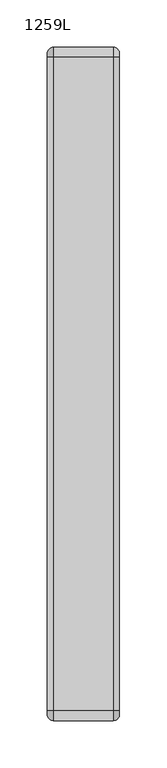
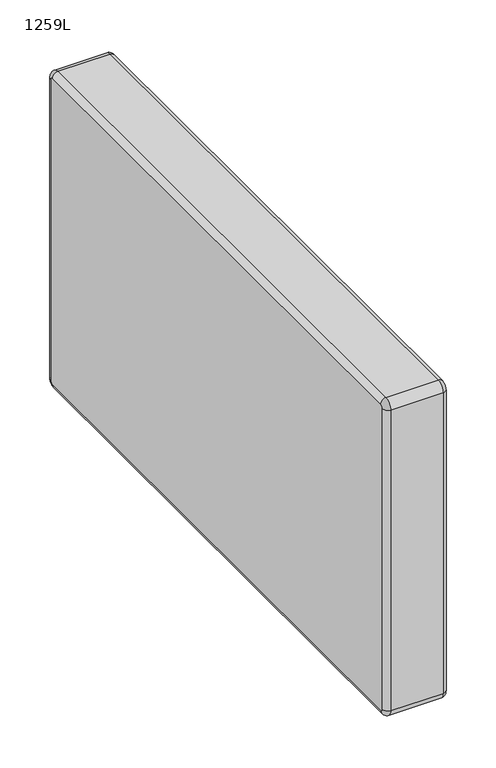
"""IFC4 building model written with IfcOpenShell, lengths in millimetres: furniture geometry, Laguna-Arm-Slim-ERG : 1259L."""

from ifc_helpers import new_model, si_unit, point, frame, origin, place, context, project, spatial, circle_curve, ellipse_curve, trimmed, source, transform, mapped, element, save
from ifc_brep_helpers import plane_surface, cylinder_surface, revolved_surface, advanced_brep


def furniture_1259l_694d9429(model_context):
    return source(origin(), model_context, "Body", "AdvancedBrep", [
        advanced_brep(
        [(-4732.5921763, -548.3558502, 599.44), (-4738.9421763, -554.7058502, 599.44), (-4738.9421763, -558.5158502, 603.25), (-4732.5921763, -558.5158502, 609.6), (-4732.5921763, -548.3558502, 213.36), (-4738.9421763, -554.7058502, 213.36), (-4732.5921763, -558.5158502, 203.2), (-4738.9421763, -558.5158502, 209.55), (-4732.5921763, -1249.3958502, 203.2), (-4738.9421763, -1249.3958502, 209.55), (-4732.5921763, -1259.5558502, 213.36), (-4738.9421763, -1253.2058502, 213.36), (-4732.5921763, -1259.5558502, 599.44), (-4738.9421763, -1253.2058502, 599.44), (-4732.5921763, -1249.3958502, 609.6), (-4738.9421763, -1249.3958502, 603.25), (-4662.7421763, -558.5158502, 603.25), (-4662.7421763, -1249.3958502, 603.25), (-4662.7421763, -1253.2058502, 599.44), (-4662.7421763, -1253.2058502, 213.36), (-4662.7421763, -1249.3958502, 209.55), (-4662.7421763, -558.5158502, 209.55), (-4662.7421763, -554.7058502, 213.36), (-4662.7421763, -554.7058502, 599.44), (-4669.0921763, -558.5158502, 609.6), (-4669.0921763, -548.3558502, 599.44), (-4669.0921763, -548.3558502, 213.36), (-4669.0921763, -558.5158502, 203.2), (-4669.0921763, -1249.3958502, 203.2), (-4669.0921763, -1259.5558502, 213.36), (-4669.0921763, -1259.5558502, 599.44), (-4669.0921763, -1249.3958502, 609.6)],
        [
            (0, 1, circle_curve(frame((-4732.5921763, -554.7058502, 599.44), z_axis=(0.0, 0.0, 1.0), x_axis=(-1.0, 0.0, 0.0)), 6.35)),
            (1, 2, circle_curve(frame((-4738.9421763, -558.5158502, 599.44), z_axis=(1.0, 0.0, 0.0), x_axis=(0.0, 0.0, 1.0)), 3.81)),
            (2, 3, circle_curve(frame((-4732.5921763, -558.5158502, 603.25), z_axis=(0.0, 1.0, 0.0), x_axis=(-1.0, 0.0, 0.0)), 6.35)),
            (3, 0, circle_curve(frame((-4732.5921763, -558.5158502, 599.44), z_axis=(-1.0, 0.0, 0.0), x_axis=(0.0, 0.0, 1.0)), 10.16)),
            (0, 4),
            (4, 5, circle_curve(frame((-4732.5921763, -554.7058502, 213.36), z_axis=(0.0, 0.0, 1.0), x_axis=(-1.0, 0.0, 0.0)), 6.35)),
            (5, 1),
            (4, 6, circle_curve(frame((-4732.5921763, -558.5158502, 213.36), z_axis=(-1.0, 0.0, 0.0), x_axis=(0.0, 1.0, 0.0)), 10.16)),
            (6, 7, circle_curve(frame((-4732.5921763, -558.5158502, 209.55), z_axis=(0.0, 1.0, 0.0), x_axis=(-1.0, 0.0, 0.0)), 6.35)),
            (7, 5, circle_curve(frame((-4738.9421763, -558.5158502, 213.36), z_axis=(1.0, 0.0, 0.0), x_axis=(0.0, 1.0, 0.0)), 3.81)),
            (6, 8),
            (8, 9, circle_curve(frame((-4732.5921763, -1249.3958502, 209.55), z_axis=(0.0, 1.0, 0.0), x_axis=(-1.0, 0.0, 0.0)), 6.35)),
            (9, 7),
            (8, 10, circle_curve(frame((-4732.5921763, -1249.3958502, 213.36), z_axis=(-1.0, 0.0, 0.0), x_axis=(0.0, 0.0, -1.0)), 10.16)),
            (10, 11, circle_curve(frame((-4732.5921763, -1253.2058502, 213.36), z_axis=(0.0, 0.0, -1.0), x_axis=(-1.0, 0.0, 0.0)), 6.35)),
            (11, 9, circle_curve(frame((-4738.9421763, -1249.3958502, 213.36), z_axis=(1.0, 0.0, 0.0), x_axis=(0.0, 0.0, -1.0)), 3.81)),
            (10, 12),
            (12, 13, circle_curve(frame((-4732.5921763, -1253.2058502, 599.44), z_axis=(0.0, 0.0, -1.0), x_axis=(-1.0, 0.0, 0.0)), 6.35)),
            (13, 11),
            (12, 14, circle_curve(frame((-4732.5921763, -1249.3958502, 599.44), z_axis=(-1.0, 0.0, 0.0), x_axis=(0.0, -1.0, 0.0)), 10.16)),
            (14, 15, circle_curve(frame((-4732.5921763, -1249.3958502, 603.25), z_axis=(0.0, -1.0, 0.0), x_axis=(-1.0, 0.0, 0.0)), 6.35)),
            (15, 13, circle_curve(frame((-4738.9421763, -1249.3958502, 599.44), z_axis=(1.0, 0.0, 0.0), x_axis=(0.0, -1.0, 0.0)), 3.81)),
            (2, 15),
            (14, 3),
            (16, 17),
            (17, 18, circle_curve(frame((-4662.7421763, -1249.3958502, 599.44), z_axis=(1.0, 0.0, 0.0), x_axis=(0.0, -1.0, 0.0)), 3.81)),
            (18, 19),
            (19, 20, circle_curve(frame((-4662.7421763, -1249.3958502, 213.36), z_axis=(1.0, 0.0, 0.0), x_axis=(0.0, 0.0, -1.0)), 3.81)),
            (20, 21),
            (21, 22, circle_curve(frame((-4662.7421763, -558.5158502, 213.36), z_axis=(1.0, 0.0, 0.0), x_axis=(0.0, 1.0, 0.0)), 3.81)),
            (22, 23),
            (23, 16, circle_curve(frame((-4662.7421763, -558.5158502, 599.44), z_axis=(1.0, 0.0, 0.0), x_axis=(0.0, 0.0, 1.0)), 3.81)),
            (3, 24),
            (24, 25, circle_curve(frame((-4669.0921763, -558.5158502, 599.44), z_axis=(-1.0, 0.0, 0.0), x_axis=(0.0, 0.0, 1.0)), 10.16)),
            (25, 0),
            (24, 16, circle_curve(frame((-4669.0921763, -558.5158502, 603.25), z_axis=(0.0, 1.0, 0.0), x_axis=(1.0, 0.0, 0.0)), 6.35)),
            (23, 25, circle_curve(frame((-4669.0921763, -554.7058502, 599.44), z_axis=(0.0, 0.0, 1.0), x_axis=(1.0, 0.0, 0.0)), 6.35)),
            (25, 26),
            (26, 4),
            (22, 26, circle_curve(frame((-4669.0921763, -554.7058502, 213.36), z_axis=(0.0, 0.0, 1.0), x_axis=(1.0, 0.0, 0.0)), 6.35)),
            (26, 27, circle_curve(frame((-4669.0921763, -558.5158502, 213.36), z_axis=(-1.0, 0.0, 0.0), x_axis=(0.0, 1.0, 0.0)), 10.16)),
            (27, 6),
            (21, 27, circle_curve(frame((-4669.0921763, -558.5158502, 209.55), z_axis=(0.0, 1.0, 0.0), x_axis=(1.0, 0.0, 0.0)), 6.35)),
            (27, 28),
            (28, 8),
            (20, 28, circle_curve(frame((-4669.0921763, -1249.3958502, 209.55), z_axis=(0.0, 1.0, 0.0), x_axis=(1.0, 0.0, 0.0)), 6.35)),
            (28, 29, circle_curve(frame((-4669.0921763, -1249.3958502, 213.36), z_axis=(-1.0, 0.0, 0.0), x_axis=(0.0, 0.0, -1.0)), 10.16)),
            (29, 10),
            (19, 29, circle_curve(frame((-4669.0921763, -1253.2058502, 213.36), z_axis=(0.0, 0.0, -1.0), x_axis=(1.0, 0.0, 0.0)), 6.35)),
            (29, 30),
            (30, 12),
            (18, 30, circle_curve(frame((-4669.0921763, -1253.2058502, 599.44), z_axis=(0.0, 0.0, -1.0), x_axis=(1.0, 0.0, 0.0)), 6.35)),
            (30, 31, circle_curve(frame((-4669.0921763, -1249.3958502, 599.44), z_axis=(-1.0, 0.0, 0.0), x_axis=(0.0, -1.0, 0.0)), 10.16)),
            (31, 14),
            (17, 31, circle_curve(frame((-4669.0921763, -1249.3958502, 603.25), z_axis=(0.0, -1.0, 0.0), x_axis=(1.0, 0.0, 0.0)), 6.35)),
            (31, 24),
        ],
        [
            revolved_surface(trimmed(ellipse_curve(frame((-4732.5921763, -558.5158502, 603.25), z_axis=(0.0, 1.0, 0.0), x_axis=(-1.0, 0.0, 0.0)), 6.35, 6.35), [point((-4738.9421763, -558.5158502, 603.25))], [point((-4732.5921763, -558.5158502, 609.6))], True, "CARTESIAN"), (-4732.5921763, -558.5158502, 599.44), (1.0, 0.0, 0.0)),
            cylinder_surface(frame((-4732.5921763, -554.7058502, 599.44), z_axis=(0.0, 0.0, 1.0), x_axis=(-1.0, 0.0, 0.0)), 6.35),
            revolved_surface(trimmed(ellipse_curve(frame((-4732.5921763, -554.7058502, 213.36), z_axis=(0.0, 0.0, -1.0), x_axis=(-1.0, 0.0, 0.0)), 6.35, 6.35), [point((-4738.9421763, -554.7058502, 213.36))], [point((-4732.5921763, -548.3558502, 213.36))], True, "CARTESIAN"), (-4732.5921763, -558.5158502, 213.36), (1.0, 0.0, 0.0)),
            cylinder_surface(frame((-4732.5921763, -558.5158502, 209.55), z_axis=(0.0, 1.0, 0.0), x_axis=(-1.0, 0.0, 0.0)), 6.35),
            revolved_surface(trimmed(ellipse_curve(frame((-4732.5921763, -1249.3958502, 209.55), z_axis=(0.0, -1.0, 0.0), x_axis=(-1.0, 0.0, 0.0)), 6.35, 6.35), [point((-4738.9421763, -1249.3958502, 209.55))], [point((-4732.5921763, -1249.3958502, 203.2))], True, "CARTESIAN"), (-4732.5921763, -1249.3958502, 213.36), (1.0, 0.0, 0.0)),
            cylinder_surface(frame((-4732.5921763, -1253.2058502, 213.36), z_axis=(0.0, 0.0, -1.0), x_axis=(-1.0, 0.0, 0.0)), 6.35),
            revolved_surface(trimmed(ellipse_curve(frame((-4732.5921763, -1253.2058502, 599.44), z_axis=(0.0, 0.0, 1.0), x_axis=(-1.0, 0.0, 0.0)), 6.35, 6.35), [point((-4738.9421763, -1253.2058502, 599.44))], [point((-4732.5921763, -1259.5558502, 599.44))], True, "CARTESIAN"), (-4732.5921763, -1249.3958502, 599.44), (1.0, 0.0, 0.0)),
            cylinder_surface(frame((-4732.5921763, -1249.3958502, 603.25), z_axis=(0.0, -1.0, 0.0), x_axis=(-1.0, 0.0, 0.0)), 6.35),
            plane_surface(frame((-4738.9421763, -1253.2058502, 599.44), z_axis=(-1.0, 0.0, 0.0), x_axis=(0.0, 0.0, -1.0))),
            plane_surface(frame((-4662.7421763, -1253.2058502, 599.44), z_axis=(1.0, 0.0, 0.0), x_axis=(0.0, 0.0, 1.0))),
            cylinder_surface(frame((-4732.5921763, -558.5158502, 599.44), z_axis=(1.0, 0.0, 0.0), x_axis=(0.0, 0.0, 1.0)), 10.16),
            revolved_surface(trimmed(ellipse_curve(frame((-4669.0921763, -558.5158502, 603.25), z_axis=(0.0, 1.0, 0.0), x_axis=(1.0, 0.0, 0.0)), 6.35, 6.35), [point((-4669.0921763, -558.5158502, 609.6))], [point((-4662.7421763, -558.5158502, 603.25))], True, "CARTESIAN"), (-4732.5921763, -558.5158502, 599.44), (1.0, 0.0, 0.0)),
            plane_surface(frame((-4732.5921763, -548.3558502, 599.44), z_axis=(0.0, 1.0, 0.0), x_axis=(0.0, 0.0, -1.0))),
            cylinder_surface(frame((-4669.0921763, -554.7058502, 599.44), z_axis=(0.0, 0.0, 1.0), x_axis=(1.0, 0.0, 0.0)), 6.35),
            cylinder_surface(frame((-4732.5921763, -558.5158502, 213.36), z_axis=(1.0, 0.0, 0.0), x_axis=(0.0, 1.0, 0.0)), 10.16),
            revolved_surface(trimmed(ellipse_curve(frame((-4669.0921763, -554.7058502, 213.36), z_axis=(0.0, 0.0, -1.0), x_axis=(1.0, 0.0, 0.0)), 6.35, 6.35), [point((-4669.0921763, -548.3558502, 213.36))], [point((-4662.7421763, -554.7058502, 213.36))], True, "CARTESIAN"), (-4732.5921763, -558.5158502, 213.36), (1.0, 0.0, 0.0)),
            plane_surface(frame((-4732.5921763, -558.5158502, 203.2), z_axis=(0.0, 0.0, -1.0), x_axis=(0.0, -1.0, 0.0))),
            cylinder_surface(frame((-4669.0921763, -558.5158502, 209.55), z_axis=(0.0, 1.0, 0.0), x_axis=(1.0, 0.0, 0.0)), 6.35),
            cylinder_surface(frame((-4732.5921763, -1249.3958502, 213.36), z_axis=(1.0, 0.0, 0.0), x_axis=(0.0, 0.0, -1.0)), 10.16),
            revolved_surface(trimmed(ellipse_curve(frame((-4669.0921763, -1249.3958502, 209.55), z_axis=(0.0, -1.0, 0.0), x_axis=(1.0, 0.0, 0.0)), 6.35, 6.35), [point((-4669.0921763, -1249.3958502, 203.2))], [point((-4662.7421763, -1249.3958502, 209.55))], True, "CARTESIAN"), (-4732.5921763, -1249.3958502, 213.36), (1.0, 0.0, 0.0)),
            plane_surface(frame((-4732.5921763, -1259.5558502, 213.36), z_axis=(0.0, -1.0, 0.0), x_axis=(0.0, 0.0, 1.0))),
            cylinder_surface(frame((-4669.0921763, -1253.2058502, 213.36), z_axis=(0.0, 0.0, -1.0), x_axis=(1.0, 0.0, 0.0)), 6.35),
            cylinder_surface(frame((-4732.5921763, -1249.3958502, 599.44), z_axis=(1.0, 0.0, 0.0), x_axis=(0.0, -1.0, 0.0)), 10.16),
            revolved_surface(trimmed(ellipse_curve(frame((-4669.0921763, -1253.2058502, 599.44), z_axis=(0.0, 0.0, 1.0), x_axis=(1.0, 0.0, 0.0)), 6.35, 6.35), [point((-4669.0921763, -1259.5558502, 599.44))], [point((-4662.7421763, -1253.2058502, 599.44))], True, "CARTESIAN"), (-4732.5921763, -1249.3958502, 599.44), (1.0, 0.0, 0.0)),
            plane_surface(frame((-4732.5921763, -1249.3958502, 609.6), z_axis=(0.0, 0.0, 1.0), x_axis=(0.0, 1.0, 0.0))),
            cylinder_surface(frame((-4669.0921763, -1249.3958502, 603.25), z_axis=(0.0, -1.0, 0.0), x_axis=(1.0, 0.0, 0.0)), 6.35),
        ],
        [
            (0, [[1, 2, 3, 4]]),
            (1, [[5, 6, 7, -1]]),
            (2, [[8, 9, 10, -6]]),
            (3, [[11, 12, 13, -9]]),
            (4, [[14, 15, 16, -12]]),
            (5, [[17, 18, 19, -15]]),
            (6, [[20, 21, 22, -18]]),
            (7, [[23, -21, 24, -3]]),
            (8, [[-7, -10, -13, -16, -19, -22, -23, -2]]),
            (9, [[25, 26, 27, 28, 29, 30, 31, 32]]),
            (10, [[33, 34, 35, -4]]),
            (11, [[36, -32, 37, -34]]),
            (12, [[-35, 38, 39, -5]]),
            (13, [[-31, 40, -38, -37]]),
            (14, [[-39, 41, 42, -8]]),
            (15, [[-30, 43, -41, -40]]),
            (16, [[-42, 44, 45, -11]]),
            (17, [[-29, 46, -44, -43]]),
            (18, [[-45, 47, 48, -14]]),
            (19, [[-28, 49, -47, -46]]),
            (20, [[-48, 50, 51, -17]]),
            (21, [[-27, 52, -50, -49]]),
            (22, [[-51, 53, 54, -20]]),
            (23, [[-26, 55, -53, -52]]),
            (24, [[-54, 56, -33, -24]]),
            (25, [[-56, -55, -25, -36]]),
        ],
    ),
    ])


if __name__ == "__main__":
    model = new_model("IFC4")
    model_context = context("Model", 3, world=origin())
    ifc_project = project(units=[si_unit("LENGTHUNIT", "METRE", prefix="MILLI")], contexts=[model_context])
    site = spatial("IfcSite", under=ifc_project)
    building = spatial("IfcBuilding", under=site)
    placement = place(None, origin())
    furniture_1259l_shape = furniture_1259l_694d9429(model_context)
    element("IfcFurniture", 1, ObjectType="Laguna-Arm-Slim-ERG : 1259L", at=placement, inside=building, context=model_context, shape_type="MappedRepresentation", body=[
        mapped(furniture_1259l_shape, transform((0.0, 0.0, 0.0), x_axis=(1.0, 0.0, 0.0), y_axis=(0.0, 1.0, 0.0), z_axis=(0.0, 0.0, 1.0))),
    ])
    save(model, "model.ifc")
